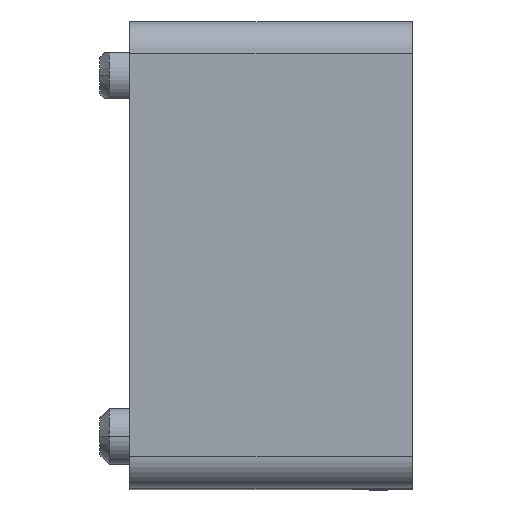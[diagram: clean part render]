
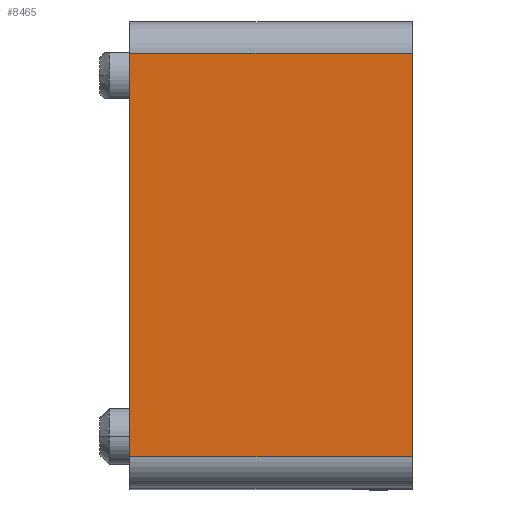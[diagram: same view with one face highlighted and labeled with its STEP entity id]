
A CAD part, top view. The second image highlights one B-rep face of the part: STEP entity #8465.
In plain terms, the highlighted planar face has unit normal (0, 0, 1).
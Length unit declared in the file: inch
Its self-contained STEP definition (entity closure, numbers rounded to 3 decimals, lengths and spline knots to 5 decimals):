
#290 = VECTOR ( 'NONE', #13514, 39.37008 ) ;
#1116 = AXIS2_PLACEMENT_3D ( 'NONE', #7269, #12488, #7187 ) ;
#1508 = CARTESIAN_POINT ( 'NONE',  ( -0.29375, 0.41937, 1.25 ) ) ;
#1665 = EDGE_CURVE ( 'NONE', #10535, #11269, #9017, .T. ) ;
#2333 = CARTESIAN_POINT ( 'NONE',  ( -0.29375, -0.41937, 1.25 ) ) ;
#2571 = DIRECTION ( 'NONE',  ( -1., 0., 0. ) ) ;
#3307 = EDGE_CURVE ( 'NONE', #10535, #15703, #6350, .T. ) ;
#3432 = ORIENTED_EDGE ( 'NONE', *, *, #1665, .T. ) ;
#3564 = PLANE ( 'NONE',  #1116 ) ;
#4127 = VECTOR ( 'NONE', #9957, 39.37008 ) ;
#4158 = DIRECTION ( 'NONE',  ( 0., -1., 0. ) ) ;
#4168 = EDGE_CURVE ( 'NONE', #15703, #9673, #7129, .T. ) ;
#4446 = EDGE_CURVE ( 'NONE', #11269, #9673, #14810, .T. ) ;
#4863 = VECTOR ( 'NONE', #2571, 39.37008 ) ;
#5079 = CARTESIAN_POINT ( 'NONE',  ( 0.29375, 0.5, 1.25 ) ) ;
#5543 = ORIENTED_EDGE ( 'NONE', *, *, #3307, .F. ) ;
#6350 = LINE ( 'NONE', #5079, #11148 ) ;
#6691 = ORIENTED_EDGE ( 'NONE', *, *, #4446, .T. ) ;
#7129 = LINE ( 'NONE', #7298, #4127 ) ;
#7187 = DIRECTION ( 'NONE',  ( -1., 0., 0. ) ) ;
#7269 = CARTESIAN_POINT ( 'NONE',  ( 0.29375, 0.5, 1.25 ) ) ;
#7298 = CARTESIAN_POINT ( 'NONE',  ( 0.29375, -0.41937, 1.25 ) ) ;
#8309 = CARTESIAN_POINT ( 'NONE',  ( -0.29375, 0.5, 1.25 ) ) ;
#8465 = ADVANCED_FACE ( 'NONE', ( #8641 ), #3564, .F. ) ;
#8641 = FACE_OUTER_BOUND ( 'NONE', #11534, .T. ) ;
#9017 = LINE ( 'NONE', #14231, #4863 ) ;
#9673 = VERTEX_POINT ( 'NONE', #2333 ) ;
#9957 = DIRECTION ( 'NONE',  ( -1., 0., 0. ) ) ;
#10146 = CARTESIAN_POINT ( 'NONE',  ( 0.29375, -0.41937, 1.25 ) ) ;
#10535 = VERTEX_POINT ( 'NONE', #16314 ) ;
#11148 = VECTOR ( 'NONE', #4158, 39.37008 ) ;
#11269 = VERTEX_POINT ( 'NONE', #1508 ) ;
#11534 = EDGE_LOOP ( 'NONE', ( #3432, #6691, #12830, #5543 ) ) ;
#12488 = DIRECTION ( 'NONE',  ( 0., 0., -1. ) ) ;
#12830 = ORIENTED_EDGE ( 'NONE', *, *, #4168, .F. ) ;
#13514 = DIRECTION ( 'NONE',  ( 0., -1., 0. ) ) ;
#14231 = CARTESIAN_POINT ( 'NONE',  ( 0.29375, 0.41937, 1.25 ) ) ;
#14810 = LINE ( 'NONE', #8309, #290 ) ;
#15703 = VERTEX_POINT ( 'NONE', #10146 ) ;
#16314 = CARTESIAN_POINT ( 'NONE',  ( 0.29375, 0.41937, 1.25 ) ) ;
